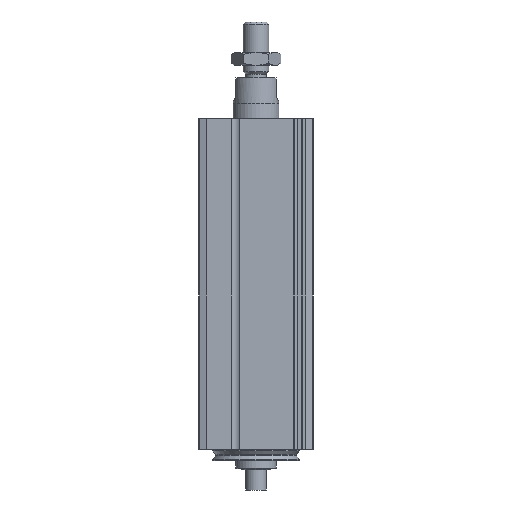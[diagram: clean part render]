
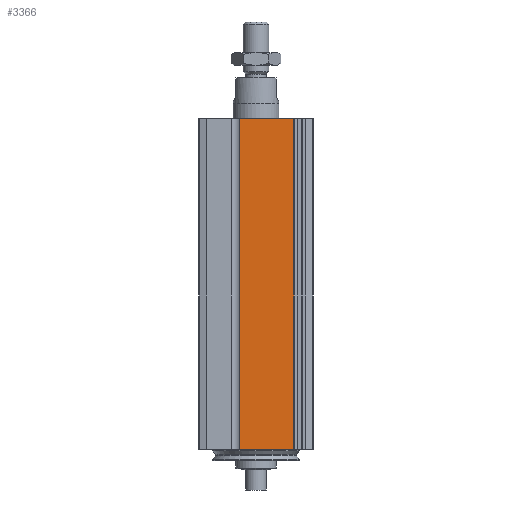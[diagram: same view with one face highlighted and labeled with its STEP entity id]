
A CAD part, left-side view. The second image highlights one B-rep face of the part: STEP entity #3366.
In plain terms, the highlighted planar face has unit normal (-1, 0, 0) as drawn and (0, 0, 1) by its records, which use the part's own axes.
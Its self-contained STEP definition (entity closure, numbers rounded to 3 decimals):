
#97=LINE('',#5547,#339);
#113=LINE('',#5593,#355);
#114=LINE('',#5597,#356);
#115=LINE('',#5599,#357);
#339=VECTOR('',#4304,1000.);
#355=VECTOR('',#4350,1000.);
#356=VECTOR('',#4355,1000.);
#357=VECTOR('',#4356,1000.);
#638=PLANE('',#3707);
#1197=ORIENTED_EDGE('',*,*,#2058,.T.);
#1198=ORIENTED_EDGE('',*,*,#2083,.F.);
#1199=ORIENTED_EDGE('',*,*,#2084,.F.);
#1200=ORIENTED_EDGE('',*,*,#2081,.T.);
#2058=EDGE_CURVE('',#2522,#2521,#97,.T.);
#2081=EDGE_CURVE('',#2537,#2522,#113,.T.);
#2083=EDGE_CURVE('',#2538,#2521,#114,.T.);
#2084=EDGE_CURVE('',#2537,#2538,#115,.T.);
#2521=VERTEX_POINT('',#5546);
#2522=VERTEX_POINT('',#5548);
#2537=VERTEX_POINT('',#5594);
#2538=VERTEX_POINT('',#5598);
#2816=EDGE_LOOP('',(#1197,#1198,#1199,#1200));
#3090=FACE_BOUND('',#2816,.T.);
#3366=ADVANCED_FACE('',(#3090),#638,.F.);
#3707=AXIS2_PLACEMENT_3D('',#5596,#4353,#4354);
#4304=DIRECTION('',(0.,-1.,0.));
#4350=DIRECTION('',(-1.,0.,0.));
#4353=DIRECTION('',(0.,0.,-1.));
#4354=DIRECTION('',(-1.,0.,0.));
#4355=DIRECTION('',(-1.,0.,0.));
#4356=DIRECTION('',(0.,-1.,0.));
#5546=CARTESIAN_POINT('',(0.,-6.3,22.5));
#5547=CARTESIAN_POINT('',(0.,14.82,22.5));
#5548=CARTESIAN_POINT('',(0.,14.82,22.5));
#5593=CARTESIAN_POINT('',(130.,14.82,22.5));
#5594=CARTESIAN_POINT('',(130.,14.82,22.5));
#5596=CARTESIAN_POINT('',(130.,14.82,22.5));
#5597=CARTESIAN_POINT('',(130.,-6.3,22.5));
#5598=CARTESIAN_POINT('',(130.,-6.3,22.5));
#5599=CARTESIAN_POINT('',(130.,14.82,22.5));
